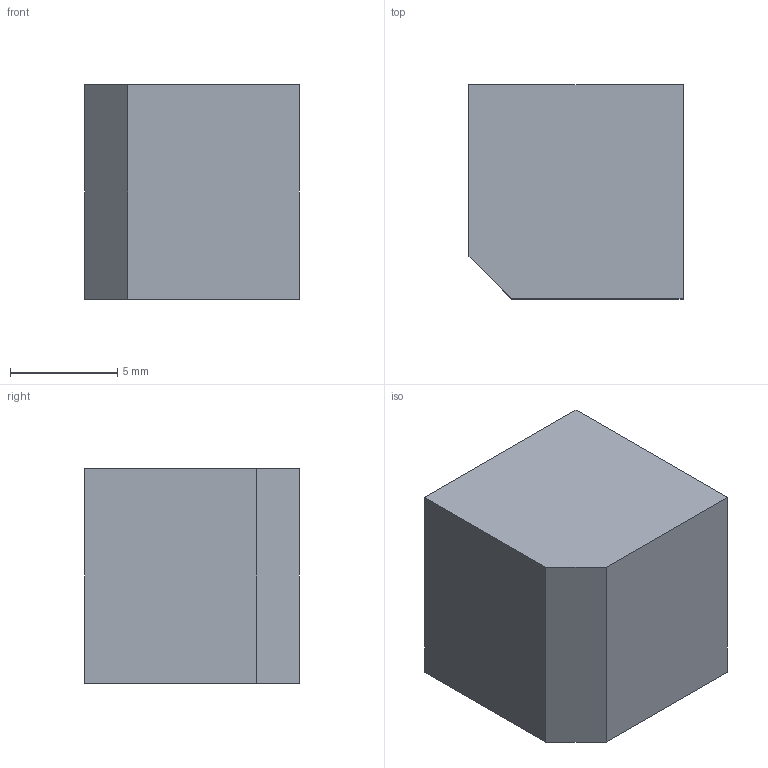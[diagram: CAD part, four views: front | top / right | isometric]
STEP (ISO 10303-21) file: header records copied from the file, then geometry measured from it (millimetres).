
FILE_DESCRIPTION(('Open CASCADE Model'),'2;1');
FILE_NAME('Open CASCADE Shape Model','2026-09-02T22:40:03',('Author'),( 'Open CASCADE'),'Open CASCADE STEP processor 7.8','Open CASCADE 7.8' ,'Unknown');
FILE_SCHEMA(('AUTOMOTIVE_DESIGN { 1 0 10303 214 1 1 1 1 }'));
Length unit declared in the file: millimetre
Products named in the file (1): Open CASCADE STEP translator 7.8 12
Bounding box: 10 x 10 x 10 mm (x, y, z)
Volume: 980 mm3; surface area: 584.3 mm2
Topology: 1 solids, 1 shells, 7 faces, 15 edges, 10 vertices
Faces by surface type: plane 7
Entity records: 394 total; most frequent: CARTESIAN_POINT 63, DIRECTION 61, LINE 45, VECTOR 45, ORIENTED_EDGE 30, PCURVE 30, DEFINITIONAL_REPRESENTATION 30, EDGE_CURVE 15
